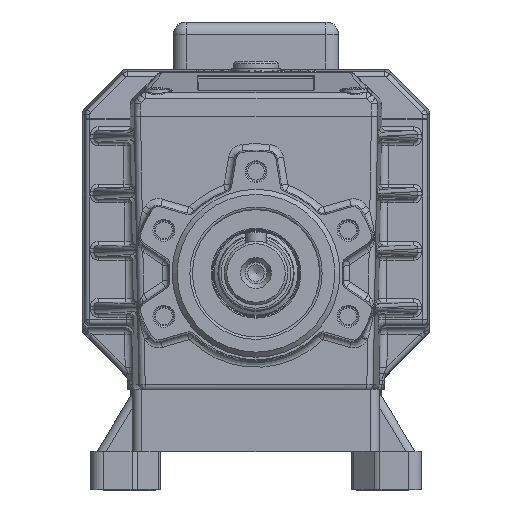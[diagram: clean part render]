
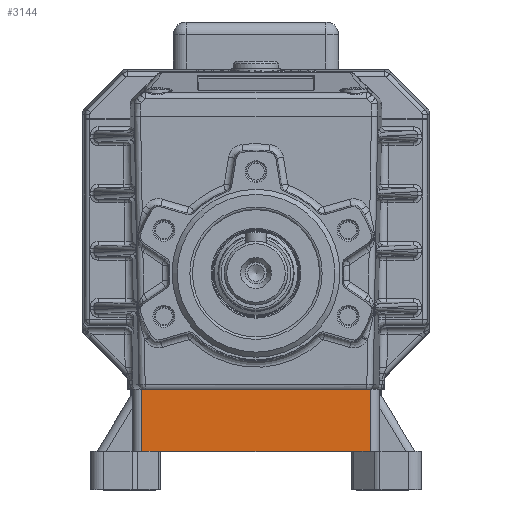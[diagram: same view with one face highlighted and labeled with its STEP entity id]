
A CAD part, top view. The second image highlights one B-rep face of the part: STEP entity #3144.
In plain terms, the highlighted planar face has unit normal (0, 0, 1).
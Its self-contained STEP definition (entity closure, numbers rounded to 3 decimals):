
#3144 = ADVANCED_FACE( '', ( #6891 ), #6892, .T. );
#6891 = FACE_OUTER_BOUND( '', #14928, .T. );
#6892 = PLANE( '', #14929 );
#14928 = EDGE_LOOP( '', ( #25918, #25919, #25920, #25921, #25922, #25923 ) );
#14929 = AXIS2_PLACEMENT_3D( '', #25924, #25925, #25926 );
#25918 = ORIENTED_EDGE( '', *, *, #31968, .F. );
#25919 = ORIENTED_EDGE( '', *, *, #33456, .F. );
#25920 = ORIENTED_EDGE( '', *, *, #30744, .T. );
#25921 = ORIENTED_EDGE( '', *, *, #33457, .T. );
#25922 = ORIENTED_EDGE( '', *, *, #32458, .T. );
#25923 = ORIENTED_EDGE( '', *, *, #33336, .T. );
#25924 = CARTESIAN_POINT( '', ( 44.923, -70., -15.438 ) );
#25925 = DIRECTION( '', ( 0., 0., 1. ) );
#25926 = DIRECTION( '', ( -1., 0., 0. ) );
#30744 = EDGE_CURVE( '', #35976, #35974, #35977, .T. );
#31968 = EDGE_CURVE( '', #37888, #37890, #37891, .T. );
#32458 = EDGE_CURVE( '', #38634, #38632, #38635, .T. );
#33336 = EDGE_CURVE( '', #38632, #37890, #39790, .T. );
#33456 = EDGE_CURVE( '', #35976, #37888, #39942, .T. );
#33457 = EDGE_CURVE( '', #35974, #38634, #39943, .T. );
#35974 = VERTEX_POINT( '', #44861 );
#35976 = VERTEX_POINT( '', #44864 );
#35977 = LINE( '', #44865, #44866 );
#37888 = VERTEX_POINT( '', #49639 );
#37890 = VERTEX_POINT( '', #49641 );
#37891 = LINE( '', #49642, #49643 );
#38632 = VERTEX_POINT( '', #51183 );
#38634 = VERTEX_POINT( '', #51185 );
#38635 = LINE( '', #51186, #51187 );
#39790 = LINE( '', #53836, #53837 );
#39942 = LINE( '', #54325, #54326 );
#39943 = LINE( '', #54327, #54328 );
#44861 = CARTESIAN_POINT( '', ( -37.5, -70., -15.438 ) );
#44864 = CARTESIAN_POINT( '', ( -44.923, -70., -15.438 ) );
#44865 = CARTESIAN_POINT( '', ( 44.923, -70., -15.438 ) );
#44866 = VECTOR( '', #57500, 1000. );
#49639 = CARTESIAN_POINT( '', ( -44.923, -45.5, -15.438 ) );
#49641 = CARTESIAN_POINT( '', ( 44.923, -45.5, -15.438 ) );
#49642 = CARTESIAN_POINT( '', ( 44.923, -45.5, -15.438 ) );
#49643 = VECTOR( '', #58694, 1000. );
#51183 = CARTESIAN_POINT( '', ( 44.923, -70., -15.438 ) );
#51185 = CARTESIAN_POINT( '', ( 37.5, -70., -15.438 ) );
#51186 = CARTESIAN_POINT( '', ( 44.923, -70., -15.438 ) );
#51187 = VECTOR( '', #59248, 1000. );
#53836 = CARTESIAN_POINT( '', ( 44.923, -70., -15.438 ) );
#53837 = VECTOR( '', #60046, 1000. );
#54325 = CARTESIAN_POINT( '', ( -44.923, -70., -15.438 ) );
#54326 = VECTOR( '', #60156, 1000. );
#54327 = CARTESIAN_POINT( '', ( 44.923, -70., -15.438 ) );
#54328 = VECTOR( '', #60157, 1000. );
#57500 = DIRECTION( '', ( 1., 0., 0. ) );
#58694 = DIRECTION( '', ( 1., 0., 0. ) );
#59248 = DIRECTION( '', ( 1., 0., 0. ) );
#60046 = DIRECTION( '', ( 0., 1., 0. ) );
#60156 = DIRECTION( '', ( 0., 1., 0. ) );
#60157 = DIRECTION( '', ( 1., 0., 0. ) );
